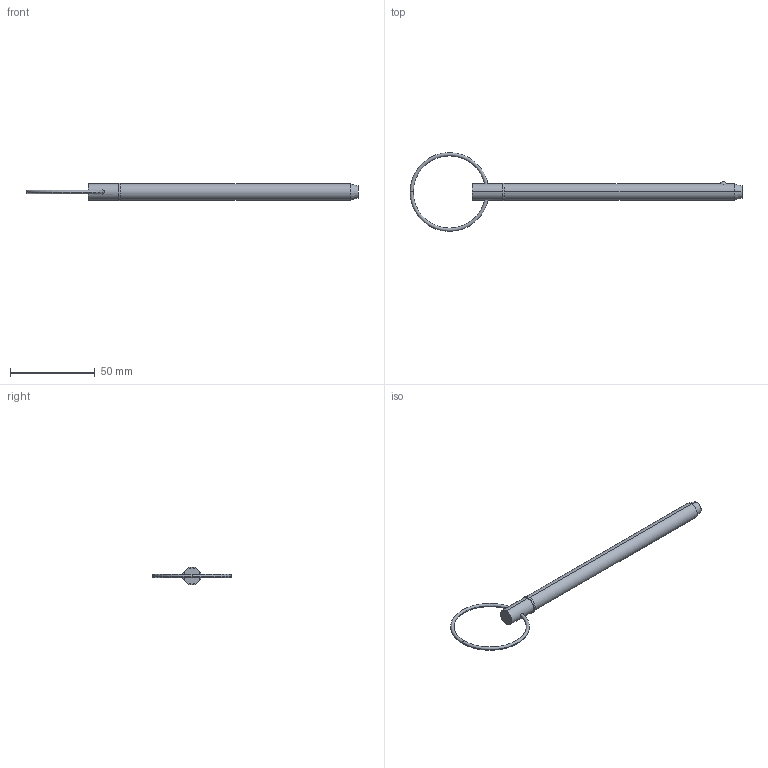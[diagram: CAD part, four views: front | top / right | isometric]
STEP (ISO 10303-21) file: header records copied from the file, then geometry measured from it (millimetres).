
FILE_DESCRIPTION (( 'STEP AP203' ), '1' );
FILE_NAME ('33016.W3750.step', '2024-11-07T11:06:14', ( '' ), ( '' ), 'SwSTEP 2.0', 'SolidWorks 2019', '' );
FILE_SCHEMA (( 'CONFIG_CONTROL_DESIGN' ));
Length unit declared in the file: millimetre
Products named in the file (3): 33016.W3750; Part1_33016.W3750; Part2_33016.W3750
Assembly tree (2 placements, depth 2):
  33016.W3750
    Part1_33016.W3750
    Part2_33016.W3750
Bounding box: 195.33 x 46.36 x 10.48 mm (x, y, z)
Volume: 11629 mm3; surface area: 5788.8 mm2
Topology: 2 solids, 2 shells, 22 faces, 43 edges, 26 vertices
Faces by surface type: torus 8, cylinder 6, plane 4, sphere 2, cone 2
Entity records: 1003 total; most frequent: CARTESIAN_POINT 226, DIRECTION 120, ORIENTED_EDGE 86, AXIS2_PLACEMENT_3D 56, EDGE_CURVE 43, CIRCLE 29, EDGE_LOOP 27, VERTEX_POINT 26
